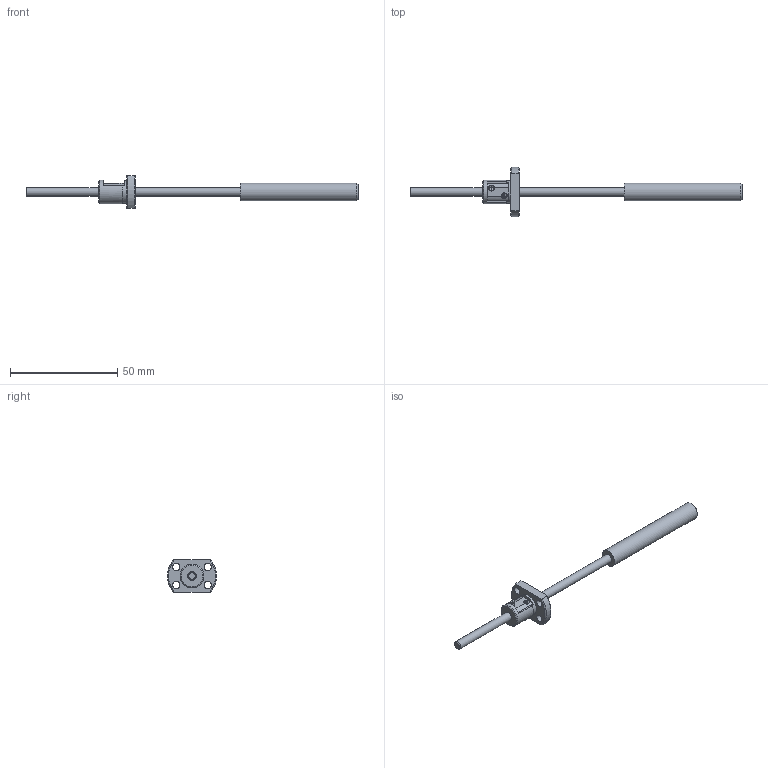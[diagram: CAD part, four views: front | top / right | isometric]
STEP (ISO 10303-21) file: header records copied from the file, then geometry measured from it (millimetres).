
FILE_DESCRIPTION(/* description */ ('STEP AP214'),/* implementation_level */ '2;1');
FILE_NAME(/* name */ 'SRT0401-096R155C7A0X(34None)',/* time_stamp */ '2026-08-04T17:44:24+02:00',/* author */ ('License CC BY-ND 4.0'),/* organization */ ('CADENAS'),/* preprocessor_version */ 'ST-DEVELOPER v20',/* originating_system */ 'PARTsolutions',/* authorisation */ ' ');
FILE_SCHEMA (('AUTOMOTIVE_DESIGN {1 0 10303 214 3 1 1}'));
Length unit declared in the file: millimetre
Products named in the file (3): SRT0401-096R155C7A0X(34None); SRT0401-96R155ACt7None1Shaft; SRT0401Nut
Assembly tree (2 placements, depth 2):
  SRT0401-096R155C7A0X(34None)
    SRT0401-96R155ACt7None1Shaft
    SRT0401Nut
Bounding box: 155 x 22.93 x 15 mm (x, y, z)
Volume: 6172.1 mm3; surface area: 4414.2 mm2
Topology: 2 solids, 2 shells, 50 faces, 131 edges, 87 vertices
Faces by surface type: plane 24, cylinder 15, cone 11
Full cylindrical faces by diameter (mm): 1 x2, 3.4 x4, 4 x2, 8.2 x1, 10.5 x1, 11 x1
Entity records: 1477 total; most frequent: CARTESIAN_POINT 289, DIRECTION 238, ORIENTED_EDGE 202, AXIS2_PLACEMENT_3D 102, EDGE_CURVE 101, EDGE_LOOP 80, FACE_BOUND 80, VERTEX_POINT 75
